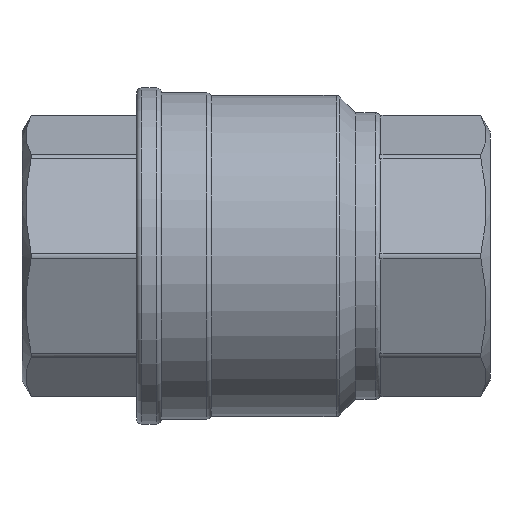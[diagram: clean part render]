
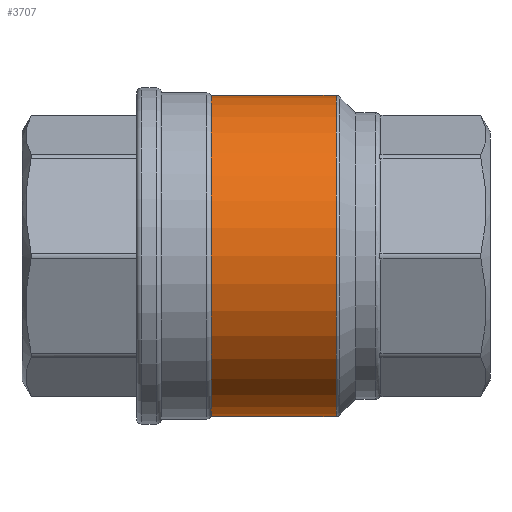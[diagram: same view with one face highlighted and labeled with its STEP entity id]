
A CAD part, front view. The second image highlights one B-rep face of the part: STEP entity #3707.
In plain terms, the highlighted cylindrical face has radius 64.5 mm (diameter 129 mm), a partial arc.
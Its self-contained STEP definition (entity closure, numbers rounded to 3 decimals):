
#96 = AXIS2_PLACEMENT_3D ( 'NONE', #1887, #1888, #1889 ) ;
#97 = AXIS2_PLACEMENT_3D ( 'NONE', #1893, #1895, #1896 ) ;
#603 = LINE ( 'NONE', #2258, #633 ) ;
#630 = LINE ( 'NONE', #2286, #646 ) ;
#633 = VECTOR ( 'NONE', #2259, 1000. ) ;
#646 = VECTOR ( 'NONE', #2287, 1000. ) ;
#720 = FACE_OUTER_BOUND ( 'NONE', #3524, .T. ) ;
#733 = CYLINDRICAL_SURFACE ( 'NONE', #3822, 64.5 ) ;
#1046 = EDGE_CURVE ( 'NONE', #1426, #1398, #2915, .T. ) ;
#1048 = EDGE_CURVE ( 'NONE', #1294, #1283, #2912, .T. ) ;
#1144 = EDGE_CURVE ( 'NONE', #1283, #1426, #603, .T. ) ;
#1146 = EDGE_CURVE ( 'NONE', #1294, #1398, #630, .T. ) ;
#1283 = VERTEX_POINT ( 'NONE', #2593 ) ;
#1294 = VERTEX_POINT ( 'NONE', #2604 ) ;
#1398 = VERTEX_POINT ( 'NONE', #2708 ) ;
#1426 = VERTEX_POINT ( 'NONE', #2736 ) ;
#1887 = CARTESIAN_POINT ( 'NONE',  ( 32.172, 0., 0. ) ) ;
#1888 = DIRECTION ( 'NONE',  ( -1., 0., 0. ) ) ;
#1889 = DIRECTION ( 'NONE',  ( 0., 0., -1. ) ) ;
#1893 = CARTESIAN_POINT ( 'NONE',  ( -18., 0., 0. ) ) ;
#1895 = DIRECTION ( 'NONE',  ( 1., 0., 0. ) ) ;
#1896 = DIRECTION ( 'NONE',  ( 0., 0., 1. ) ) ;
#2258 = CARTESIAN_POINT ( 'NONE',  ( -18., 0., -64.5 ) ) ;
#2259 = DIRECTION ( 'NONE',  ( 1., 0., 0. ) ) ;
#2286 = CARTESIAN_POINT ( 'NONE',  ( -18., 0., 64.5 ) ) ;
#2287 = DIRECTION ( 'NONE',  ( 1., 0., 0. ) ) ;
#2593 = CARTESIAN_POINT ( 'NONE',  ( -18., 0., -64.5 ) ) ;
#2604 = CARTESIAN_POINT ( 'NONE',  ( -18., 0., 64.5 ) ) ;
#2708 = CARTESIAN_POINT ( 'NONE',  ( 32.172, 0., 64.5 ) ) ;
#2736 = CARTESIAN_POINT ( 'NONE',  ( 32.172, 0., -64.5 ) ) ;
#2777 = DIRECTION ( 'NONE',  ( 0., 0., -1. ) ) ;
#2778 = DIRECTION ( 'NONE',  ( 1., 0., 0. ) ) ;
#2779 = CARTESIAN_POINT ( 'NONE',  ( -18., 0., 0. ) ) ;
#2912 = CIRCLE ( 'NONE', #97, 64.5 ) ;
#2915 = CIRCLE ( 'NONE', #96, 64.5 ) ;
#3253 = ORIENTED_EDGE ( 'NONE', *, *, #1046, .T. ) ;
#3254 = ORIENTED_EDGE ( 'NONE', *, *, #1144, .T. ) ;
#3255 = ORIENTED_EDGE ( 'NONE', *, *, #1048, .T. ) ;
#3256 = ORIENTED_EDGE ( 'NONE', *, *, #1146, .F. ) ;
#3524 = EDGE_LOOP ( 'NONE', ( #3256, #3255, #3254, #3253 ) ) ;
#3707 = ADVANCED_FACE ( 'NONE', ( #720 ), #733, .T. ) ;
#3822 = AXIS2_PLACEMENT_3D ( 'NONE', #2779, #2778, #2777 ) ;
